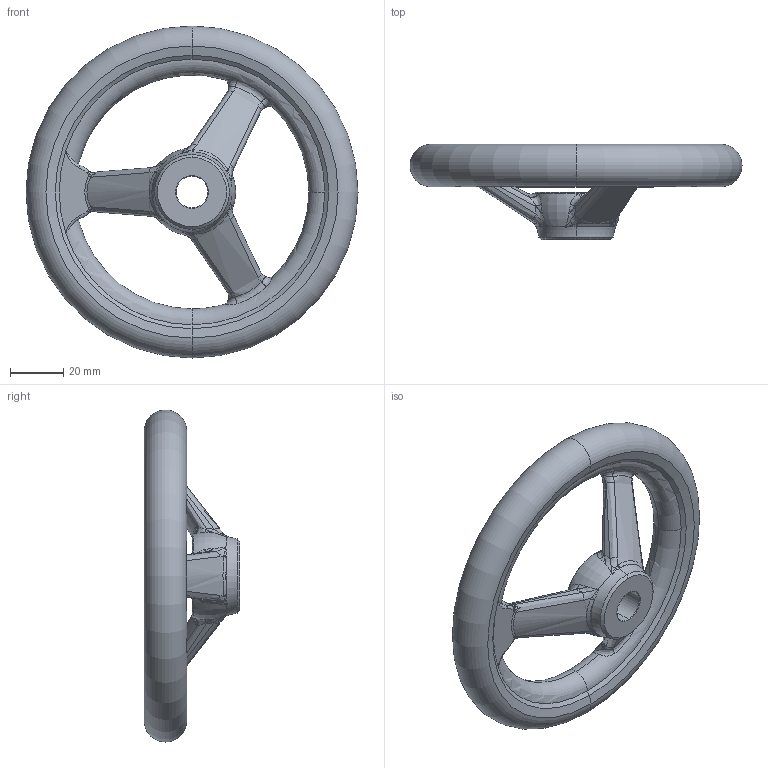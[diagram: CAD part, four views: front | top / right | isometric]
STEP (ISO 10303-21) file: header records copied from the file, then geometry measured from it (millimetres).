
FILE_DESCRIPTION (( 'STEP AP203' ), '1' );
FILE_NAME ('din950_a4_125x12.step', '2015-02-02T09:39:16', ( 'Magnus' ), ( 'Microsoft' ), 'SwSTEP 2.0', 'SolidWorks 2014', '' );
FILE_SCHEMA (( 'CONFIG_CONTROL_DESIGN' ));
Length unit declared in the file: millimetre
Products named in the file (1): din950_a4_125x12
Bounding box: 125 x 36 x 125 mm (x, y, z)
Volume: 98027.6 mm3; surface area: 25127.1 mm2
Topology: 1 solids, 1 shells, 197 faces, 478 edges, 259 vertices
Faces by surface type: bspline 138, torus 28, cone 16, plane 10, cylinder 5
Entity records: 10274 total; most frequent: CARTESIAN_POINT 6690, ORIENTED_EDGE 920, DIRECTION 492, EDGE_CURVE 460, B_SPLINE_CURVE_WITH_KNOTS 260, VERTEX_POINT 259, AXIS2_PLACEMENT_3D 236, EDGE_LOOP 199
